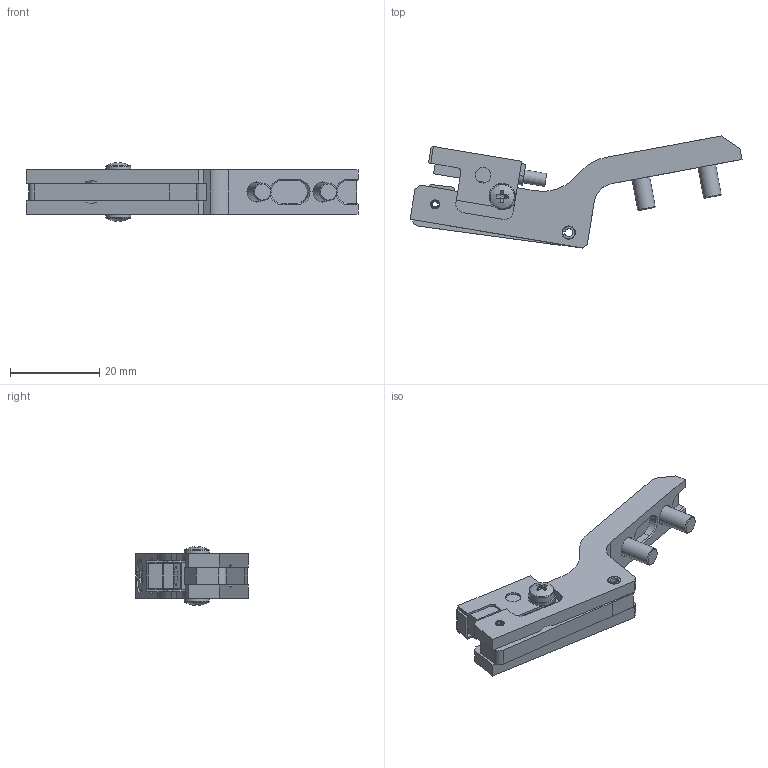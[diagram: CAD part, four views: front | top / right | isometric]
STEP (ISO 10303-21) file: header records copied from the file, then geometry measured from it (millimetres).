
FILE_DESCRIPTION (( 'STEP AP203' ), '1' );
FILE_NAME ('CHK-EXF-20-C(023293).STEP', '2019-09-06T05:37:27', ( '' ), ( '' ), 'SwSTEP 2.0', 'SolidWorks 2018', '' );
FILE_SCHEMA (( 'CONFIG_CONTROL_DESIGN' ));
Length unit declared in the file: millimetre
Products named in the file (2): CHK-EXF-20-C(023293)
Bounding box: 74.24 x 25.06 x 13.11 mm (x, y, z)
Volume: 6620.1 mm3; surface area: 7359.4 mm2
Topology: 12 solids, 12 shells, 310 faces, 753 edges, 481 vertices
Faces by surface type: plane 199, cylinder 70, cone 31, torus 8, sphere 2
Full cylindrical faces by diameter (mm): 0.8 x2, 1 x2, 2 x2, 2.5 x1, 2.9 x1, 3 x4, 3.3 x1, 3.5 x4, 4 x2, 4.2 x1, 4.4 x1, 4.5 x2, 5.2 x1, 5.6 x2, 7 x2, 8 x2
Entity records: 8942 total; most frequent: CARTESIAN_POINT 1612, DIRECTION 1525, ORIENTED_EDGE 1390, EDGE_CURVE 695, AXIS2_PLACEMENT_3D 550, VERTEX_POINT 469, VECTOR 425, LINE 425
